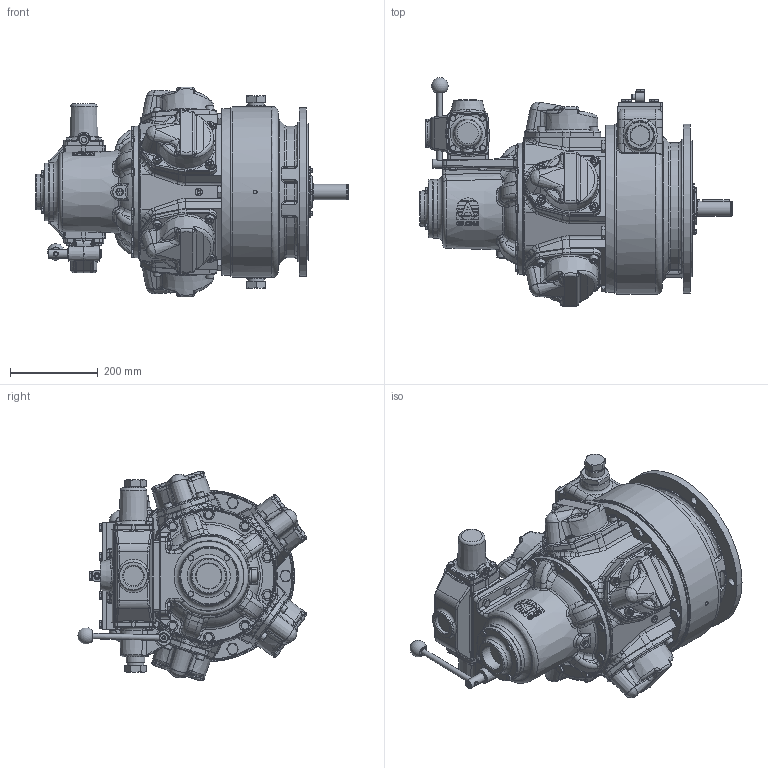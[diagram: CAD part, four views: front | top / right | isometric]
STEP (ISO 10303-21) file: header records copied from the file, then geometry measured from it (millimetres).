
FILE_DESCRIPTION (( 'STEP AP214' ), '1' );
FILE_NAME ('RM610+HCV510+RM510 Brake Defeature + Logo.STEP', '2023-05-17T14:11:22', ( '' ), ( '' ), 'SwSTEP 2.0', 'SolidWorks 2022', '' );
FILE_SCHEMA (( 'AUTOMOTIVE_DESIGN' ));
Length unit declared in the file: millimetre
Products named in the file (1): RM610+HCV510+RM510 Brake Defeature + Logo
Bounding box: 711.31 x 521.68 x 477.82 mm (x, y, z)
Volume: 54642580.4 mm3; surface area: 1336478.1 mm2
Topology: 1 solids, 1 shells, 3686 faces, 8772 edges, 5199 vertices
Faces by surface type: plane 1517, cone 684, bspline 673, cylinder 622, torus 163, sphere 27
Full cylindrical faces by diameter (mm): 2 x4, 3 x1, 3.15 x1, 6.8 x1, 8 x2, 8.8 x1, 10 x8, 11.445 x4, 11.9 x12, 12.7 x1, 13 x1, 13.157 x1, 16 x8, 17 x12, 18 x25, 19 x2, 20 x22, 20.57 x2, 21.5 x3, 22 x1, 24 x5, 24.8 x1, 35.01 x1, 38 x2, 41.91 x2, 44.845 x2, 48 x1, 51.398 x1, 57 x1, 62 x1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
Entity records: 196758 total; most frequent: CARTESIAN_POINT 79782, ORIENTED_EDGE 16678, DIRECTION 14453, EDGE_CURVE 8339, AXIS2_PLACEMENT_3D 5805, VERTEX_POINT 5075, EDGE_LOOP 4118, FACE_OUTER_BOUND 3837
